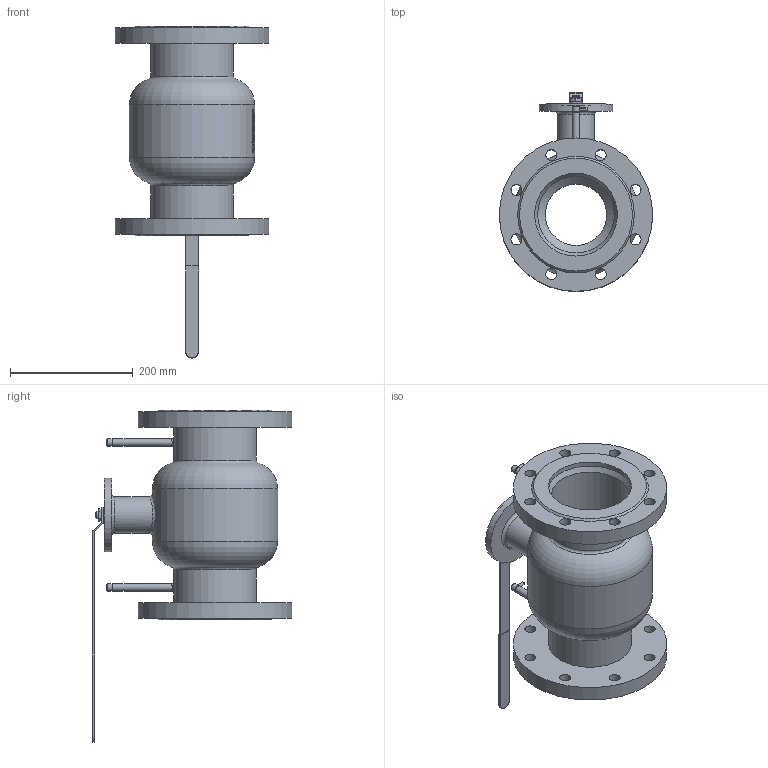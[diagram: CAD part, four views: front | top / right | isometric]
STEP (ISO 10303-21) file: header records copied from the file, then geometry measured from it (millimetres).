
FILE_DESCRIPTION(('STEP AP214'), '1');
FILE_NAME('BVR3232P-SP-F-H Êðàí øàðîâîé ðåãóëèðóþùèé DN.ru Äó125 Ðó16', '', ('UNSPECIFIED'), ('UNSPECIFIED'), 'C3D Converter', 'C3D Toolkit', '');
FILE_SCHEMA(('AUTOMOTIVE_DESIGN { 1 0 10303 214 3 1 1}'));
Length unit declared in the file: millimetre
Products named in the file (1): BVR3232P-SP-F-H
Bounding box: 250 x 325 x 541 mm (x, y, z)
Volume: 5930169.5 mm3; surface area: 558222.5 mm2
Topology: 1 solids, 1 shells, 718 faces, 1863 edges, 1239 vertices
Faces by surface type: plane 339, bspline 179, cylinder 96, extrusion 82, cone 13, torus 9
Full cylindrical faces by diameter (mm): 2.5 x2, 5 x2, 12 x6, 18 x16, 60 x1, 100 x1, 116 x1, 120 x1, 125 x2, 135 x4, 204 x1, 250 x2
Entity records: 77568 total; most frequent: CARTESIAN_POINT 60580, ORIENTED_EDGE 3604, DIRECTION 2412, EDGE_CURVE 1802, VERTEX_POINT 1239, VECTOR 934, EDGE_LOOP 905, LINE 852
